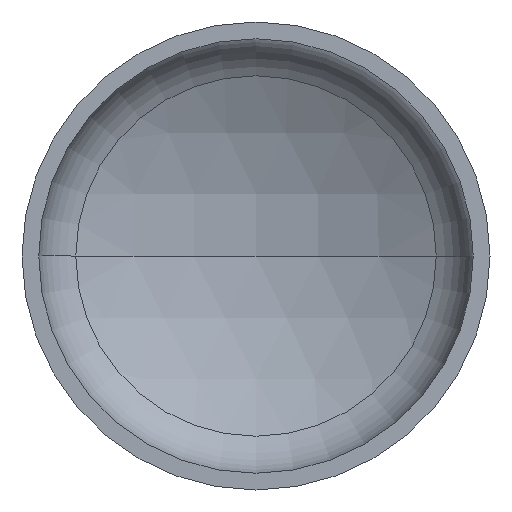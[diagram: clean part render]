
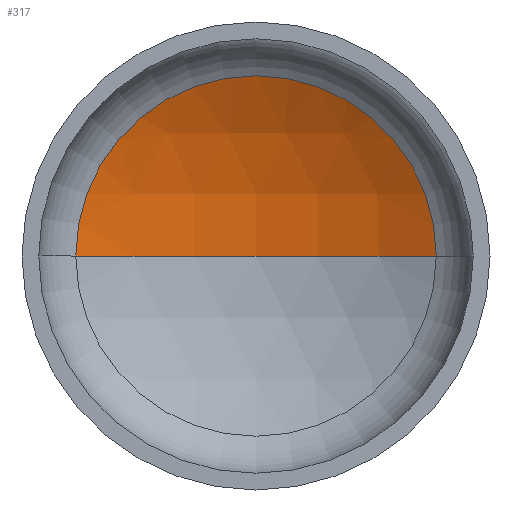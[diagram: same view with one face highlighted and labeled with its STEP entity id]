
A CAD part, front view. The second image highlights one B-rep face of the part: STEP entity #317.
In plain terms, the highlighted spherical face has radius 1520 mm.
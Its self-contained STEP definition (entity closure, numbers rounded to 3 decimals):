
#9 = ORIENTED_EDGE ( 'NONE', *, *, #201, .T. ) ;
#14 = EDGE_LOOP ( 'NONE', ( #72, #9, #65 ) ) ;
#18 = CARTESIAN_POINT ( 'NONE',  ( 0., 561.837, 0. ) ) ;
#28 = AXIS2_PLACEMENT_3D ( 'NONE', #117, #136, #318 ) ;
#33 = VERTEX_POINT ( 'NONE', #349 ) ;
#65 = ORIENTED_EDGE ( 'NONE', *, *, #199, .T. ) ;
#68 = VERTEX_POINT ( 'NONE', #242 ) ;
#72 = ORIENTED_EDGE ( 'NONE', *, *, #203, .F. ) ;
#104 = AXIS2_PLACEMENT_3D ( 'NONE', #208, #248, #247 ) ;
#110 = AXIS2_PLACEMENT_3D ( 'NONE', #165, #186, #189 ) ;
#116 = AXIS2_PLACEMENT_3D ( 'NONE', #188, #228, #380 ) ;
#117 = CARTESIAN_POINT ( 'NONE',  ( 0., -958.163, 0. ) ) ;
#136 = DIRECTION ( 'NONE',  ( 0., 0., -1. ) ) ;
#158 = FACE_OUTER_BOUND ( 'NONE', #14, .T. ) ;
#165 = CARTESIAN_POINT ( 'NONE',  ( 0., -958.163, 0. ) ) ;
#186 = DIRECTION ( 'NONE',  ( 0., 0., -1. ) ) ;
#188 = CARTESIAN_POINT ( 'NONE',  ( 0., 374.201, 0. ) ) ;
#189 = DIRECTION ( 'NONE',  ( -1., 0., 0. ) ) ;
#197 = CIRCLE ( 'NONE', #110, 1520. ) ;
#199 = EDGE_CURVE ( 'NONE', #33, #68, #375, .T. ) ;
#201 = EDGE_CURVE ( 'NONE', #232, #33, #197, .T. ) ;
#203 = EDGE_CURVE ( 'NONE', #232, #68, #263, .T. ) ;
#208 = CARTESIAN_POINT ( 'NONE',  ( 0., -958.163, 0. ) ) ;
#228 = DIRECTION ( 'NONE',  ( 0., -1., 0. ) ) ;
#232 = VERTEX_POINT ( 'NONE', #18 ) ;
#242 = CARTESIAN_POINT ( 'NONE',  ( -731.577, 374.201, 0. ) ) ;
#247 = DIRECTION ( 'NONE',  ( 1., 0., 0. ) ) ;
#248 = DIRECTION ( 'NONE',  ( 0., 0., 1. ) ) ;
#249 = SPHERICAL_SURFACE ( 'NONE', #28, 1520. ) ;
#263 = CIRCLE ( 'NONE', #104, 1520. ) ;
#317 = ADVANCED_FACE ( 'NONE', ( #158 ), #249, .F. ) ;
#318 = DIRECTION ( 'NONE',  ( -1., 0., 0. ) ) ;
#349 = CARTESIAN_POINT ( 'NONE',  ( 731.577, 374.201, 0. ) ) ;
#375 = CIRCLE ( 'NONE', #116, 731.577 ) ;
#380 = DIRECTION ( 'NONE',  ( 1., 0., 0. ) ) ;
